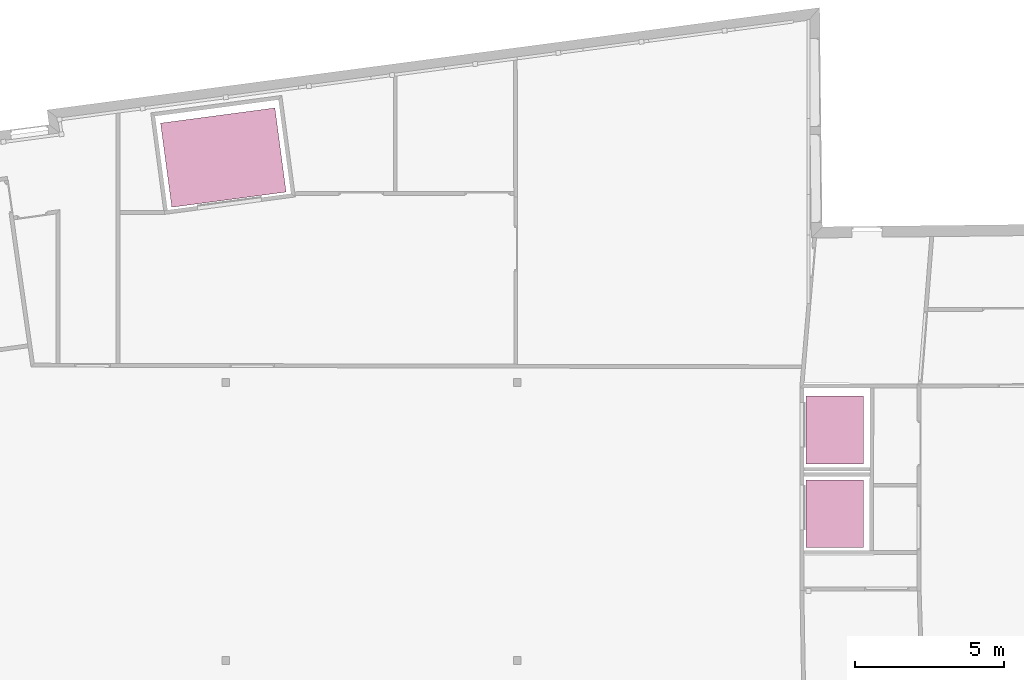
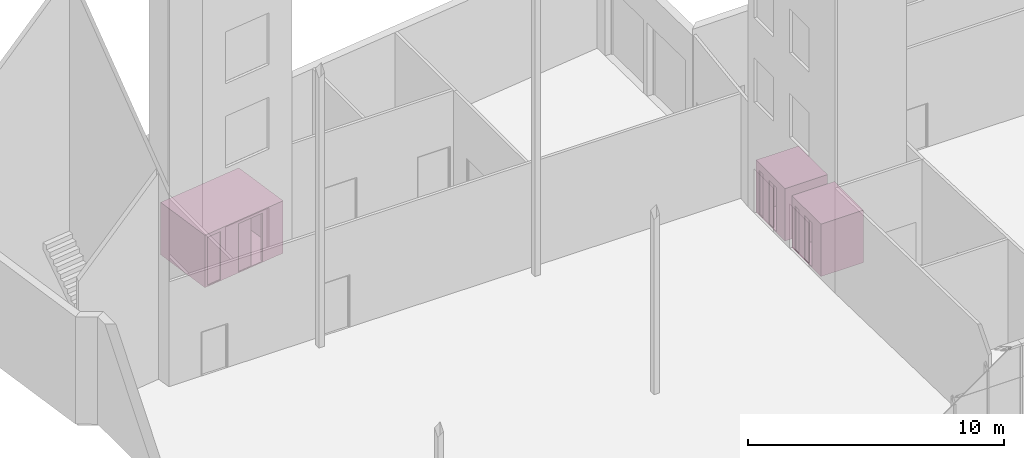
# One storey, part 40 of 40: 3 transport elements.
"""IFC2X3 building model written with IfcOpenShell, lengths in metres."""

from ifc_helpers import new_model, entity, si_unit, converted_unit, money_unit, direction, frame, origin_with_axes, place, context, subcontext, project, spatial, faceted_brep, material, type_object, element, save


model = new_model("IFC2X3")

# Units and contexts
model_context = context("Model", 3, precision=1e-05, world=origin_with_axes(), true_north=direction((0.0, 1.0)))
body_context = subcontext(model_context, "Body", "Model", "MODEL_VIEW")
ifc_project = project(units=[si_unit("LENGTHUNIT", "METRE"), si_unit("AREAUNIT", "SQUARE_METRE"), si_unit("VOLUMEUNIT", "CUBIC_METRE"), converted_unit("PLANEANGLEUNIT", "DEGREE", entity("IfcPlaneAngleMeasure", 0.0174532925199), si_unit("PLANEANGLEUNIT", "RADIAN"), dimensions=[0, 0, 0, 0, 0, 0, 0]), si_unit("SOLIDANGLEUNIT", "STERADIAN"), money_unit("EUR"), converted_unit("TIMEUNIT", "Year", entity("IfcTimeMeasure", 31556926.0), si_unit("TIMEUNIT", "SECOND"), dimensions=[0, 0, 0, 0, 0, 0, 0]), si_unit("MASSUNIT", "GRAM"), si_unit("THERMODYNAMICTEMPERATUREUNIT", "DEGREE_CELSIUS"), si_unit("LUMINOUSINTENSITYUNIT", "LUMEN")], contexts=[model_context])

# Site, building, storey
site_placement = place(None, origin_with_axes())
site = spatial("IfcSite", under=ifc_project, at=site_placement, Name="Undefined", CompositionType="ELEMENT")
building_placement = place(site_placement, origin_with_axes())
building = spatial("IfcBuilding", under=site, at=building_placement, Name="Undefined", CompositionType="ELEMENT")
storey_placement = place(building_placement, origin_with_axes())
storey = spatial("IfcBuildingStorey", under=building, at=storey_placement, Name="Rez de chauss\x8ee", CompositionType="ELEMENT", Elevation=0.0)

# Transport elements
ifc_material = material(Name="50 %")
transport_element_type = type_object("IfcTransportElementType", Name="Ascenseur 18", PredefinedType="NOTDEFINED")
transport_element_1_placement = place(storey_placement, frame((28.9737636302, 18.4150686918, 0.0), z_axis=(0.0, 0.0, 1.0), x_axis=(0.0, -1.0, 0.0)))
element("IfcTransportElement", 1, at=transport_element_1_placement, inside=storey, type_object=transport_element_type, material=ifc_material, Name="T\x87rgy-009", CapacityByNumber=0.0, CapacityByWeight=0.0, OperationType="ELEVATOR", context=body_context, shape_type="Brep", body=[
    faceted_brep([(1.265, 0.21, 0.0), (0.815, 0.21, 0.0), (0.815, 0.21, 2.1), (1.265, 0.21, 2.1), (1.265, 0.19, 0.0), (0.815, 0.19, 0.0), (0.815, 0.19, 2.1), (1.265, 0.19, 2.1)], [[[0, 1, 2, 3]], [[1, 0, 4, 5]], [[2, 1, 5, 6]], [[3, 2, 6, 7]], [[0, 3, 7, 4]], [[5, 4, 7, 6]]]),
    faceted_brep([(1.58, 0.23, 0.0), (1.13, 0.23, 0.0), (1.13, 0.23, 2.1), (1.58, 0.23, 2.1), (1.58, 0.21, 0.0), (1.13, 0.21, 0.0), (1.13, 0.21, 2.1), (1.58, 0.21, 2.1)], [[[0, 1, 2, 3]], [[1, 0, 4, 5]], [[2, 1, 5, 6]], [[3, 2, 6, 7]], [[0, 3, 7, 4]], [[5, 4, 7, 6]]]),
    faceted_brep([(2.45, 0.27, 0.0), (2.45, 2.03, 0.0), (0.35, 2.03, 0.0), (0.35, 0.27, 0.0), (0.95, 0.27, 0.0), (0.95, 0.23, 0.0), (0.5, 0.23, 0.0), (0.5, 0.19, 0.0), (0.27, 0.19, 0.0), (0.27, 2.11, 0.0), (2.53, 2.11, 0.0), (2.53, 0.19, 0.0), (1.85, 0.19, 0.0), (1.85, 0.27, 0.0), (2.45, 0.27, 2.4), (2.45, 2.03, 2.4), (0.35, 2.03, 2.4), (0.35, 0.27, 2.4), (1.85, 0.27, 2.1), (0.95, 0.27, 2.1), (0.95, 0.23, 2.1), (0.5, 0.23, 2.1), (0.5, 0.19, 2.1), (1.4, 0.19, 2.1), (1.85, 0.19, 2.1), (2.53, 0.19, 2.4), (0.27, 0.19, 2.4), (0.27, 2.11, 2.4), (2.53, 2.11, 2.4), (1.4, 0.23, 2.1)], [[[0, 1, 2, 3, 4, 5, 6, 7, 8, 9, 10, 11, 12, 13]], [[14, 15, 1, 0]], [[15, 16, 2, 1]], [[16, 17, 3, 2]], [[17, 14, 0, 13, 18, 19, 4, 3]], [[4, 19, 20, 5]], [[6, 5, 20, 21]], [[21, 22, 7, 6]], [[23, 24, 12, 11, 25, 26, 8, 7, 22]], [[8, 26, 27, 9]], [[9, 27, 28, 10]], [[10, 28, 25, 11]], [[18, 13, 12, 24]], [[25, 28, 27, 26], [14, 17, 16, 15]], [[19, 18, 24, 23, 29, 20]], [[20, 29, 23, 22, 21]]]),
    faceted_brep([(0.27, 0.19, -0.05), (2.53, 0.19, -0.05), (2.53, 0.19, 0.0), (0.27, 0.19, 0.0), (0.27, 2.11, -0.05), (2.53, 2.11, -0.05), (2.53, 2.11, 0.0), (0.27, 2.11, 0.0)], [[[0, 1, 2, 3]], [[0, 4, 5, 1]], [[1, 5, 6, 2]], [[3, 2, 6, 7]], [[4, 0, 3, 7]], [[5, 4, 7, 6]]]),
    faceted_brep([(0.27, 0.19, 2.4), (2.53, 0.19, 2.4), (2.53, 0.19, 2.45), (0.27, 0.19, 2.45), (0.27, 2.11, 2.4), (2.53, 2.11, 2.4), (2.53, 2.11, 2.45), (0.27, 2.11, 2.45)], [[[0, 1, 2, 3]], [[0, 4, 5, 1]], [[1, 5, 6, 2]], [[3, 2, 6, 7]], [[4, 0, 3, 7]], [[5, 4, 7, 6]]]),
    faceted_brep([(2.45, 0.37, 1.0), (2.45, 0.47, 1.0), (2.45, 0.47, 1.175), (2.45, 0.37, 1.175), (2.44, 0.37, 1.0), (2.44, 0.47, 1.0), (2.44, 0.47, 1.175), (2.44, 0.37, 1.175)], [[[0, 1, 2, 3]], [[1, 0, 4, 5]], [[2, 1, 5, 6]], [[3, 2, 6, 7]], [[0, 3, 7, 4]], [[5, 4, 7, 6]]]),
    faceted_brep([(2.44, 0.450428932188, 1.00542893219), (2.44, 0.450428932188, 1.01957106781), (2.435, 0.451843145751, 1.01815685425), (2.435, 0.451843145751, 1.00684314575), (2.44, 0.464571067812, 1.00542893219), (2.44, 0.464571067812, 1.01957106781), (2.435, 0.463156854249, 1.01815685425), (2.435, 0.463156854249, 1.00684314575)], [[[0, 1, 2, 3]], [[0, 4, 5, 1]], [[1, 5, 6, 2]], [[3, 2, 6, 7]], [[4, 0, 3, 7]], [[5, 4, 7, 6]]]),
    faceted_brep([(2.44, 0.425428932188, 1.00542893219), (2.44, 0.425428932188, 1.01957106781), (2.435, 0.426843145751, 1.01815685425), (2.435, 0.426843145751, 1.00684314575), (2.44, 0.439571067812, 1.00542893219), (2.44, 0.439571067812, 1.01957106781), (2.435, 0.438156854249, 1.01815685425), (2.435, 0.438156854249, 1.00684314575)], [[[0, 1, 2, 3]], [[0, 4, 5, 1]], [[1, 5, 6, 2]], [[3, 2, 6, 7]], [[4, 0, 3, 7]], [[5, 4, 7, 6]]]),
    faceted_brep([(2.44, 0.400428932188, 1.00542893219), (2.44, 0.400428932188, 1.01957106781), (2.435, 0.401843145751, 1.01815685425), (2.435, 0.401843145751, 1.00684314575), (2.44, 0.414571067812, 1.00542893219), (2.44, 0.414571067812, 1.01957106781), (2.435, 0.413156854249, 1.01815685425), (2.435, 0.413156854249, 1.00684314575)], [[[0, 1, 2, 3]], [[0, 4, 5, 1]], [[1, 5, 6, 2]], [[3, 2, 6, 7]], [[4, 0, 3, 7]], [[5, 4, 7, 6]]]),
    faceted_brep([(2.44, 0.375428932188, 1.00542893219), (2.44, 0.375428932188, 1.01957106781), (2.435, 0.376843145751, 1.01815685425), (2.435, 0.376843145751, 1.00684314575), (2.44, 0.389571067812, 1.00542893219), (2.44, 0.389571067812, 1.01957106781), (2.435, 0.388156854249, 1.01815685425), (2.435, 0.388156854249, 1.00684314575)], [[[0, 1, 2, 3]], [[0, 4, 5, 1]], [[1, 5, 6, 2]], [[3, 2, 6, 7]], [[4, 0, 3, 7]], [[5, 4, 7, 6]]]),
    faceted_brep([(2.44, 0.450428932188, 1.15542893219), (2.44, 0.450428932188, 1.16957106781), (2.435, 0.451843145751, 1.16815685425), (2.435, 0.451843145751, 1.15684314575), (2.44, 0.464571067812, 1.15542893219), (2.44, 0.464571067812, 1.16957106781), (2.435, 0.463156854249, 1.16815685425), (2.435, 0.463156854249, 1.15684314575)], [[[0, 1, 2, 3]], [[0, 4, 5, 1]], [[1, 5, 6, 2]], [[3, 2, 6, 7]], [[4, 0, 3, 7]], [[5, 4, 7, 6]]]),
    faceted_brep([(2.44, 0.450428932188, 1.13042893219), (2.44, 0.450428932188, 1.14457106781), (2.435, 0.451843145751, 1.14315685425), (2.435, 0.451843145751, 1.13184314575), (2.44, 0.464571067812, 1.13042893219), (2.44, 0.464571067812, 1.14457106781), (2.435, 0.463156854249, 1.14315685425), (2.435, 0.463156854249, 1.13184314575)], [[[0, 1, 2, 3]], [[0, 4, 5, 1]], [[1, 5, 6, 2]], [[3, 2, 6, 7]], [[4, 0, 3, 7]], [[5, 4, 7, 6]]]),
    faceted_brep([(2.44, 0.450428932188, 1.10542893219), (2.44, 0.450428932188, 1.11957106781), (2.435, 0.451843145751, 1.11815685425), (2.435, 0.451843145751, 1.10684314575), (2.44, 0.464571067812, 1.10542893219), (2.44, 0.464571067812, 1.11957106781), (2.435, 0.463156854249, 1.11815685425), (2.435, 0.463156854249, 1.10684314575)], [[[0, 1, 2, 3]], [[0, 4, 5, 1]], [[1, 5, 6, 2]], [[3, 2, 6, 7]], [[4, 0, 3, 7]], [[5, 4, 7, 6]]]),
    faceted_brep([(2.44, 0.450428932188, 1.08042893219), (2.44, 0.450428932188, 1.09457106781), (2.435, 0.451843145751, 1.09315685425), (2.435, 0.451843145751, 1.08184314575), (2.44, 0.464571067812, 1.08042893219), (2.44, 0.464571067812, 1.09457106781), (2.435, 0.463156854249, 1.09315685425), (2.435, 0.463156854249, 1.08184314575)], [[[0, 1, 2, 3]], [[0, 4, 5, 1]], [[1, 5, 6, 2]], [[3, 2, 6, 7]], [[4, 0, 3, 7]], [[5, 4, 7, 6]]]),
    faceted_brep([(2.44, 0.450428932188, 1.05542893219), (2.44, 0.450428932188, 1.06957106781), (2.435, 0.451843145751, 1.06815685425), (2.435, 0.451843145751, 1.05684314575), (2.44, 0.464571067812, 1.05542893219), (2.44, 0.464571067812, 1.06957106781), (2.435, 0.463156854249, 1.06815685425), (2.435, 0.463156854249, 1.05684314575)], [[[0, 1, 2, 3]], [[0, 4, 5, 1]], [[1, 5, 6, 2]], [[3, 2, 6, 7]], [[4, 0, 3, 7]], [[5, 4, 7, 6]]]),
])
transport_element_2_placement = place(storey_placement, frame((7.70086368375, 24.2415778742, 0.0), z_axis=(0.0, 0.0, 1.0), x_axis=(0.991215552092, 0.132256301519, 0.0)))
element("IfcTransportElement", 2, at=transport_element_2_placement, inside=storey, type_object=transport_element_type, material=ifc_material, Name="T\x87rgy-009", CapacityByNumber=0.0, CapacityByWeight=0.0, OperationType="ELEVATOR", context=body_context, shape_type="Brep", body=[
    faceted_brep([(1.93, 0.21, 0.0), (1.03, 0.21, 0.0), (1.03, 0.21, 2.3), (1.93, 0.21, 2.3), (1.93, 0.19, 0.0), (1.03, 0.19, 0.0), (1.03, 0.19, 2.3), (1.93, 0.19, 2.3)], [[[0, 1, 2, 3]], [[1, 0, 4, 5]], [[2, 1, 5, 6]], [[3, 2, 6, 7]], [[0, 3, 7, 4]], [[5, 4, 7, 6]]]),
    faceted_brep([(2.56, 0.23, 0.0), (1.66, 0.23, 0.0), (1.66, 0.23, 2.3), (2.56, 0.23, 2.3), (2.56, 0.21, 0.0), (1.66, 0.21, 0.0), (1.66, 0.21, 2.3), (2.56, 0.21, 2.3)], [[[0, 1, 2, 3]], [[1, 0, 4, 5]], [[2, 1, 5, 6]], [[3, 2, 6, 7]], [[0, 3, 7, 4]], [[5, 4, 7, 6]]]),
    faceted_brep([(0.35, 0.27, 0.0), (1.3, 0.27, 0.0), (1.3, 0.23, 0.0), (0.4, 0.23, 0.0), (0.4, 0.19, 0.0), (0.27, 0.19, 0.0), (0.27, 3.03, 0.0), (4.13, 3.03, 0.0), (4.13, 0.19, 0.0), (3.1, 0.19, 0.0), (3.1, 0.27, 0.0), (4.05, 0.27, 0.0), (4.05, 2.95, 0.0), (0.35, 2.95, 0.0), (0.35, 0.27, 2.4), (4.05, 0.27, 2.4), (3.1, 0.27, 2.3), (1.3, 0.27, 2.3), (1.3, 0.23, 2.3), (0.4, 0.23, 2.3), (0.4, 0.19, 2.3), (2.2, 0.19, 2.3), (3.1, 0.19, 2.3), (4.13, 0.19, 2.4), (0.27, 0.19, 2.4), (0.27, 3.03, 2.4), (4.13, 3.03, 2.4), (4.05, 2.95, 2.4), (0.35, 2.95, 2.4), (2.2, 0.23, 2.3)], [[[0, 1, 2, 3, 4, 5, 6, 7, 8, 9, 10, 11, 12, 13]], [[14, 15, 11, 10, 16, 17, 1, 0]], [[1, 17, 18, 2]], [[3, 2, 18, 19]], [[3, 19, 20, 4]], [[21, 22, 9, 8, 23, 24, 5, 4, 20]], [[5, 24, 25, 6]], [[6, 25, 26, 7]], [[7, 26, 23, 8]], [[16, 10, 9, 22]], [[15, 27, 12, 11]], [[27, 28, 13, 12]], [[28, 14, 0, 13]], [[23, 26, 25, 24], [28, 27, 15, 14]], [[17, 16, 22, 21, 29, 18]], [[18, 29, 21, 20, 19]]]),
    faceted_brep([(0.27, 0.19, -0.05), (4.13, 0.19, -0.05), (4.13, 0.19, 0.0), (0.27, 0.19, 0.0), (0.27, 3.03, -0.05), (4.13, 3.03, -0.05), (4.13, 3.03, 0.0), (0.27, 3.03, 0.0)], [[[0, 1, 2, 3]], [[0, 4, 5, 1]], [[1, 5, 6, 2]], [[3, 2, 6, 7]], [[4, 0, 3, 7]], [[5, 4, 7, 6]]]),
    faceted_brep([(0.27, 0.19, 2.4), (4.13, 0.19, 2.4), (4.13, 0.19, 2.45), (0.27, 0.19, 2.45), (0.27, 3.03, 2.4), (4.13, 3.03, 2.4), (4.13, 3.03, 2.45), (0.27, 3.03, 2.45)], [[[0, 1, 2, 3]], [[0, 4, 5, 1]], [[1, 5, 6, 2]], [[3, 2, 6, 7]], [[4, 0, 3, 7]], [[5, 4, 7, 6]]]),
    faceted_brep([(4.05, 0.37, 1.0), (4.05, 0.47, 1.0), (4.05, 0.47, 1.15), (4.05, 0.37, 1.15), (4.04, 0.37, 1.0), (4.04, 0.47, 1.0), (4.04, 0.47, 1.15), (4.04, 0.37, 1.15)], [[[0, 1, 2, 3]], [[1, 0, 4, 5]], [[2, 1, 5, 6]], [[3, 2, 6, 7]], [[0, 3, 7, 4]], [[5, 4, 7, 6]]]),
    faceted_brep([(4.04, 0.450428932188, 1.00542893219), (4.04, 0.450428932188, 1.01957106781), (4.035, 0.451843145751, 1.01815685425), (4.035, 0.451843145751, 1.00684314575), (4.04, 0.464571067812, 1.00542893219), (4.04, 0.464571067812, 1.01957106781), (4.035, 0.463156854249, 1.01815685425), (4.035, 0.463156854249, 1.00684314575)], [[[0, 1, 2, 3]], [[0, 4, 5, 1]], [[1, 5, 6, 2]], [[3, 2, 6, 7]], [[4, 0, 3, 7]], [[5, 4, 7, 6]]]),
    faceted_brep([(4.04, 0.425428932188, 1.00542893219), (4.04, 0.425428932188, 1.01957106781), (4.035, 0.426843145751, 1.01815685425), (4.035, 0.426843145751, 1.00684314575), (4.04, 0.439571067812, 1.00542893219), (4.04, 0.439571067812, 1.01957106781), (4.035, 0.438156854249, 1.01815685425), (4.035, 0.438156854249, 1.00684314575)], [[[0, 1, 2, 3]], [[0, 4, 5, 1]], [[1, 5, 6, 2]], [[3, 2, 6, 7]], [[4, 0, 3, 7]], [[5, 4, 7, 6]]]),
    faceted_brep([(4.04, 0.400428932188, 1.00542893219), (4.04, 0.400428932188, 1.01957106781), (4.035, 0.401843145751, 1.01815685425), (4.035, 0.401843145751, 1.00684314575), (4.04, 0.414571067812, 1.00542893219), (4.04, 0.414571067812, 1.01957106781), (4.035, 0.413156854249, 1.01815685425), (4.035, 0.413156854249, 1.00684314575)], [[[0, 1, 2, 3]], [[0, 4, 5, 1]], [[1, 5, 6, 2]], [[3, 2, 6, 7]], [[4, 0, 3, 7]], [[5, 4, 7, 6]]]),
    faceted_brep([(4.04, 0.375428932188, 1.00542893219), (4.04, 0.375428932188, 1.01957106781), (4.035, 0.376843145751, 1.01815685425), (4.035, 0.376843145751, 1.00684314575), (4.04, 0.389571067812, 1.00542893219), (4.04, 0.389571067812, 1.01957106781), (4.035, 0.388156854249, 1.01815685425), (4.035, 0.388156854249, 1.00684314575)], [[[0, 1, 2, 3]], [[0, 4, 5, 1]], [[1, 5, 6, 2]], [[3, 2, 6, 7]], [[4, 0, 3, 7]], [[5, 4, 7, 6]]]),
    faceted_brep([(4.04, 0.450428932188, 1.13042893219), (4.04, 0.450428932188, 1.14457106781), (4.035, 0.451843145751, 1.14315685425), (4.035, 0.451843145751, 1.13184314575), (4.04, 0.464571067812, 1.13042893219), (4.04, 0.464571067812, 1.14457106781), (4.035, 0.463156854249, 1.14315685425), (4.035, 0.463156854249, 1.13184314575)], [[[0, 1, 2, 3]], [[0, 4, 5, 1]], [[1, 5, 6, 2]], [[3, 2, 6, 7]], [[4, 0, 3, 7]], [[5, 4, 7, 6]]]),
    faceted_brep([(4.04, 0.450428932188, 1.10542893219), (4.04, 0.450428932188, 1.11957106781), (4.035, 0.451843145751, 1.11815685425), (4.035, 0.451843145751, 1.10684314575), (4.04, 0.464571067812, 1.10542893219), (4.04, 0.464571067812, 1.11957106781), (4.035, 0.463156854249, 1.11815685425), (4.035, 0.463156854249, 1.10684314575)], [[[0, 1, 2, 3]], [[0, 4, 5, 1]], [[1, 5, 6, 2]], [[3, 2, 6, 7]], [[4, 0, 3, 7]], [[5, 4, 7, 6]]]),
    faceted_brep([(4.04, 0.450428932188, 1.08042893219), (4.04, 0.450428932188, 1.09457106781), (4.035, 0.451843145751, 1.09315685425), (4.035, 0.451843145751, 1.08184314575), (4.04, 0.464571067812, 1.08042893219), (4.04, 0.464571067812, 1.09457106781), (4.035, 0.463156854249, 1.09315685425), (4.035, 0.463156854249, 1.08184314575)], [[[0, 1, 2, 3]], [[0, 4, 5, 1]], [[1, 5, 6, 2]], [[3, 2, 6, 7]], [[4, 0, 3, 7]], [[5, 4, 7, 6]]]),
    faceted_brep([(4.04, 0.450428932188, 1.05542893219), (4.04, 0.450428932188, 1.06957106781), (4.035, 0.451843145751, 1.06815685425), (4.035, 0.451843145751, 1.05684314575), (4.04, 0.464571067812, 1.05542893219), (4.04, 0.464571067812, 1.06957106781), (4.035, 0.463156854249, 1.06815685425), (4.035, 0.463156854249, 1.05684314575)], [[[0, 1, 2, 3]], [[0, 4, 5, 1]], [[1, 5, 6, 2]], [[3, 2, 6, 7]], [[4, 0, 3, 7]], [[5, 4, 7, 6]]]),
])
transport_element_3_placement = place(storey_placement, frame((28.9737636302, 15.6150686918, 0.0), z_axis=(0.0, 0.0, 1.0), x_axis=(0.0, -1.0, 0.0)))
element("IfcTransportElement", 3, at=transport_element_3_placement, inside=storey, type_object=transport_element_type, material=ifc_material, Name="T\x87rgy-009", CapacityByNumber=0.0, CapacityByWeight=0.0, OperationType="ELEVATOR", context=body_context, shape_type="Brep", body=[
    faceted_brep([(1.265, 0.21, 0.0), (0.815, 0.21, 0.0), (0.815, 0.21, 2.1), (1.265, 0.21, 2.1), (1.265, 0.19, 0.0), (0.815, 0.19, 0.0), (0.815, 0.19, 2.1), (1.265, 0.19, 2.1)], [[[0, 1, 2, 3]], [[1, 0, 4, 5]], [[2, 1, 5, 6]], [[3, 2, 6, 7]], [[0, 3, 7, 4]], [[5, 4, 7, 6]]]),
    faceted_brep([(1.58, 0.23, 0.0), (1.13, 0.23, 0.0), (1.13, 0.23, 2.1), (1.58, 0.23, 2.1), (1.58, 0.21, 0.0), (1.13, 0.21, 0.0), (1.13, 0.21, 2.1), (1.58, 0.21, 2.1)], [[[0, 1, 2, 3]], [[1, 0, 4, 5]], [[2, 1, 5, 6]], [[3, 2, 6, 7]], [[0, 3, 7, 4]], [[5, 4, 7, 6]]]),
    faceted_brep([(2.45, 0.27, 0.0), (2.45, 2.03, 0.0), (0.35, 2.03, 0.0), (0.35, 0.27, 0.0), (0.95, 0.27, 0.0), (0.95, 0.23, 0.0), (0.5, 0.23, 0.0), (0.5, 0.19, 0.0), (0.27, 0.19, 0.0), (0.27, 2.11, 0.0), (2.53, 2.11, 0.0), (2.53, 0.19, 0.0), (1.85, 0.19, 0.0), (1.85, 0.27, 0.0), (2.45, 0.27, 2.4), (2.45, 2.03, 2.4), (0.35, 2.03, 2.4), (0.35, 0.27, 2.4), (1.85, 0.27, 2.1), (0.95, 0.27, 2.1), (0.95, 0.23, 2.1), (0.5, 0.23, 2.1), (0.5, 0.19, 2.1), (1.4, 0.19, 2.1), (1.85, 0.19, 2.1), (2.53, 0.19, 2.4), (0.27, 0.19, 2.4), (0.27, 2.11, 2.4), (2.53, 2.11, 2.4), (1.4, 0.23, 2.1)], [[[0, 1, 2, 3, 4, 5, 6, 7, 8, 9, 10, 11, 12, 13]], [[14, 15, 1, 0]], [[15, 16, 2, 1]], [[16, 17, 3, 2]], [[17, 14, 0, 13, 18, 19, 4, 3]], [[4, 19, 20, 5]], [[6, 5, 20, 21]], [[21, 22, 7, 6]], [[23, 24, 12, 11, 25, 26, 8, 7, 22]], [[8, 26, 27, 9]], [[9, 27, 28, 10]], [[10, 28, 25, 11]], [[18, 13, 12, 24]], [[25, 28, 27, 26], [14, 17, 16, 15]], [[19, 18, 24, 23, 29, 20]], [[20, 29, 23, 22, 21]]]),
    faceted_brep([(0.27, 0.19, -0.05), (2.53, 0.19, -0.05), (2.53, 0.19, 0.0), (0.27, 0.19, 0.0), (0.27, 2.11, -0.05), (2.53, 2.11, -0.05), (2.53, 2.11, 0.0), (0.27, 2.11, 0.0)], [[[0, 1, 2, 3]], [[0, 4, 5, 1]], [[1, 5, 6, 2]], [[3, 2, 6, 7]], [[4, 0, 3, 7]], [[5, 4, 7, 6]]]),
    faceted_brep([(0.27, 0.19, 2.4), (2.53, 0.19, 2.4), (2.53, 0.19, 2.45), (0.27, 0.19, 2.45), (0.27, 2.11, 2.4), (2.53, 2.11, 2.4), (2.53, 2.11, 2.45), (0.27, 2.11, 2.45)], [[[0, 1, 2, 3]], [[0, 4, 5, 1]], [[1, 5, 6, 2]], [[3, 2, 6, 7]], [[4, 0, 3, 7]], [[5, 4, 7, 6]]]),
    faceted_brep([(2.45, 0.37, 1.0), (2.45, 0.47, 1.0), (2.45, 0.47, 1.175), (2.45, 0.37, 1.175), (2.44, 0.37, 1.0), (2.44, 0.47, 1.0), (2.44, 0.47, 1.175), (2.44, 0.37, 1.175)], [[[0, 1, 2, 3]], [[1, 0, 4, 5]], [[2, 1, 5, 6]], [[3, 2, 6, 7]], [[0, 3, 7, 4]], [[5, 4, 7, 6]]]),
    faceted_brep([(2.44, 0.450428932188, 1.00542893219), (2.44, 0.450428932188, 1.01957106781), (2.435, 0.451843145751, 1.01815685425), (2.435, 0.451843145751, 1.00684314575), (2.44, 0.464571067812, 1.00542893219), (2.44, 0.464571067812, 1.01957106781), (2.435, 0.463156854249, 1.01815685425), (2.435, 0.463156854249, 1.00684314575)], [[[0, 1, 2, 3]], [[0, 4, 5, 1]], [[1, 5, 6, 2]], [[3, 2, 6, 7]], [[4, 0, 3, 7]], [[5, 4, 7, 6]]]),
    faceted_brep([(2.44, 0.425428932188, 1.00542893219), (2.44, 0.425428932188, 1.01957106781), (2.435, 0.426843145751, 1.01815685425), (2.435, 0.426843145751, 1.00684314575), (2.44, 0.439571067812, 1.00542893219), (2.44, 0.439571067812, 1.01957106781), (2.435, 0.438156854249, 1.01815685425), (2.435, 0.438156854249, 1.00684314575)], [[[0, 1, 2, 3]], [[0, 4, 5, 1]], [[1, 5, 6, 2]], [[3, 2, 6, 7]], [[4, 0, 3, 7]], [[5, 4, 7, 6]]]),
    faceted_brep([(2.44, 0.400428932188, 1.00542893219), (2.44, 0.400428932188, 1.01957106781), (2.435, 0.401843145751, 1.01815685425), (2.435, 0.401843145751, 1.00684314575), (2.44, 0.414571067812, 1.00542893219), (2.44, 0.414571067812, 1.01957106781), (2.435, 0.413156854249, 1.01815685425), (2.435, 0.413156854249, 1.00684314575)], [[[0, 1, 2, 3]], [[0, 4, 5, 1]], [[1, 5, 6, 2]], [[3, 2, 6, 7]], [[4, 0, 3, 7]], [[5, 4, 7, 6]]]),
    faceted_brep([(2.44, 0.375428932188, 1.00542893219), (2.44, 0.375428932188, 1.01957106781), (2.435, 0.376843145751, 1.01815685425), (2.435, 0.376843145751, 1.00684314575), (2.44, 0.389571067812, 1.00542893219), (2.44, 0.389571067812, 1.01957106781), (2.435, 0.388156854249, 1.01815685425), (2.435, 0.388156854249, 1.00684314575)], [[[0, 1, 2, 3]], [[0, 4, 5, 1]], [[1, 5, 6, 2]], [[3, 2, 6, 7]], [[4, 0, 3, 7]], [[5, 4, 7, 6]]]),
    faceted_brep([(2.44, 0.450428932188, 1.15542893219), (2.44, 0.450428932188, 1.16957106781), (2.435, 0.451843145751, 1.16815685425), (2.435, 0.451843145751, 1.15684314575), (2.44, 0.464571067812, 1.15542893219), (2.44, 0.464571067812, 1.16957106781), (2.435, 0.463156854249, 1.16815685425), (2.435, 0.463156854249, 1.15684314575)], [[[0, 1, 2, 3]], [[0, 4, 5, 1]], [[1, 5, 6, 2]], [[3, 2, 6, 7]], [[4, 0, 3, 7]], [[5, 4, 7, 6]]]),
    faceted_brep([(2.44, 0.450428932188, 1.13042893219), (2.44, 0.450428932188, 1.14457106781), (2.435, 0.451843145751, 1.14315685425), (2.435, 0.451843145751, 1.13184314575), (2.44, 0.464571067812, 1.13042893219), (2.44, 0.464571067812, 1.14457106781), (2.435, 0.463156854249, 1.14315685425), (2.435, 0.463156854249, 1.13184314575)], [[[0, 1, 2, 3]], [[0, 4, 5, 1]], [[1, 5, 6, 2]], [[3, 2, 6, 7]], [[4, 0, 3, 7]], [[5, 4, 7, 6]]]),
    faceted_brep([(2.44, 0.450428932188, 1.10542893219), (2.44, 0.450428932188, 1.11957106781), (2.435, 0.451843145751, 1.11815685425), (2.435, 0.451843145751, 1.10684314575), (2.44, 0.464571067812, 1.10542893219), (2.44, 0.464571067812, 1.11957106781), (2.435, 0.463156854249, 1.11815685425), (2.435, 0.463156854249, 1.10684314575)], [[[0, 1, 2, 3]], [[0, 4, 5, 1]], [[1, 5, 6, 2]], [[3, 2, 6, 7]], [[4, 0, 3, 7]], [[5, 4, 7, 6]]]),
    faceted_brep([(2.44, 0.450428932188, 1.08042893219), (2.44, 0.450428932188, 1.09457106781), (2.435, 0.451843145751, 1.09315685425), (2.435, 0.451843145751, 1.08184314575), (2.44, 0.464571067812, 1.08042893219), (2.44, 0.464571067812, 1.09457106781), (2.435, 0.463156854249, 1.09315685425), (2.435, 0.463156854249, 1.08184314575)], [[[0, 1, 2, 3]], [[0, 4, 5, 1]], [[1, 5, 6, 2]], [[3, 2, 6, 7]], [[4, 0, 3, 7]], [[5, 4, 7, 6]]]),
    faceted_brep([(2.44, 0.450428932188, 1.05542893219), (2.44, 0.450428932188, 1.06957106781), (2.435, 0.451843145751, 1.06815685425), (2.435, 0.451843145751, 1.05684314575), (2.44, 0.464571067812, 1.05542893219), (2.44, 0.464571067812, 1.06957106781), (2.435, 0.463156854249, 1.06815685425), (2.435, 0.463156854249, 1.05684314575)], [[[0, 1, 2, 3]], [[0, 4, 5, 1]], [[1, 5, 6, 2]], [[3, 2, 6, 7]], [[4, 0, 3, 7]], [[5, 4, 7, 6]]]),
])

save(model, "model.ifc")
